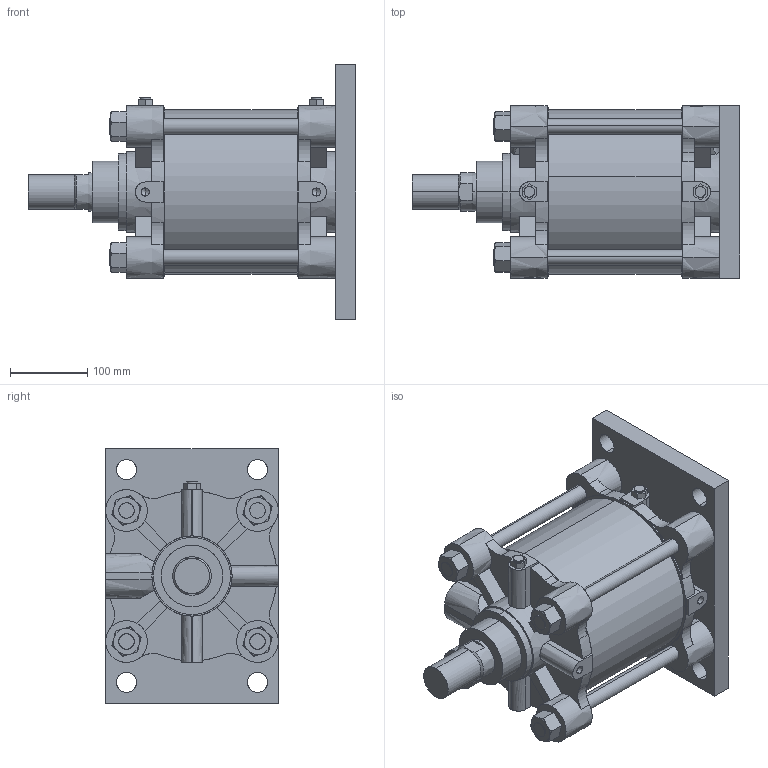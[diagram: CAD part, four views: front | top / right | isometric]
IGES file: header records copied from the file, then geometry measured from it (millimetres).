
Start section: SolidWorks IGES file using analytic representation for surfaces
Global section: file name: C:\Users\Toshiba\Desktop\A##2-200#-100-B.IGS; native system: SolidWorks 2014; preprocessor: SolidWorks 2014; author: Toshiba; date: 160331.150012; units: millimetre
Bounding box: 425 x 224 x 330 mm (x, y, z)
Surface area: 837769 mm2 (no closed solid volume)
Topology: 0 solids, 0 shells, 344 faces, 6996 edges, 6984 vertices
Faces by surface type: bspline 196, revolution 148
